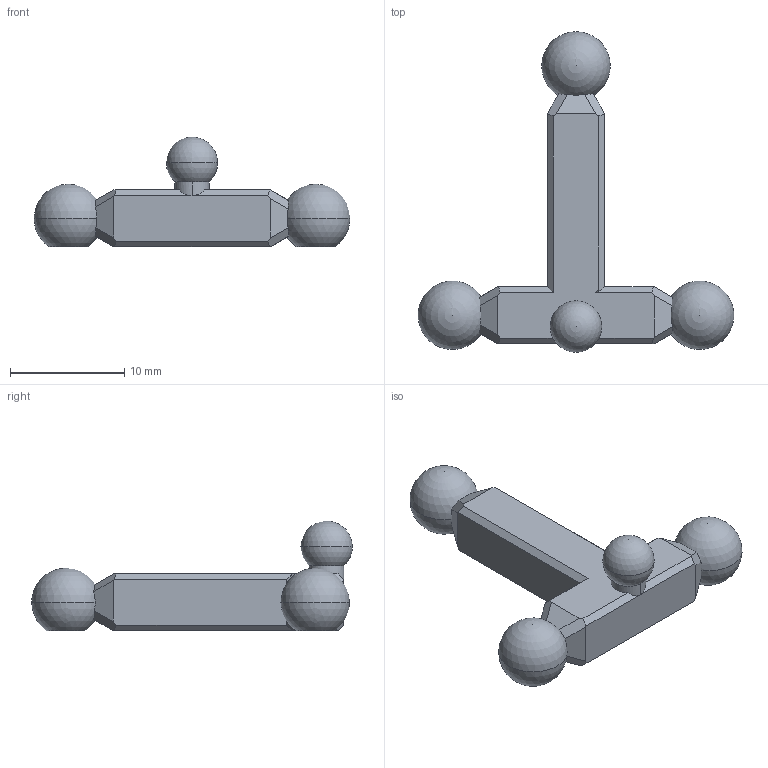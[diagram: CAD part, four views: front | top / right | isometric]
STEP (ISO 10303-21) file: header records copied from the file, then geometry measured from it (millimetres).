
FILE_DESCRIPTION (( 'STEP AP214' ), '1' );
FILE_NAME ('Spine.STEP', '2023-12-23T22:20:38', ( '' ), ( '' ), 'SwSTEP 2.0', 'SolidWorks 2023', '' );
FILE_SCHEMA (( 'AUTOMOTIVE_DESIGN' ));
Length unit declared in the file: millimetre
Products named in the file (1): Spine
Bounding box: 27.67 x 28.08 x 9.62 mm (x, y, z)
Volume: 1159.9 mm3; surface area: 968.1 mm2
Topology: 1 solids, 1 shells, 59 faces, 181 edges, 120 vertices
Faces by surface type: plane 49, sphere 8, cylinder 2
Entity records: 1939 total; most frequent: CARTESIAN_POINT 343, DIRECTION 332, ORIENTED_EDGE 330, EDGE_CURVE 165, VECTOR 114, LINE 114, VERTEX_POINT 112, AXIS2_PLACEMENT_3D 109
